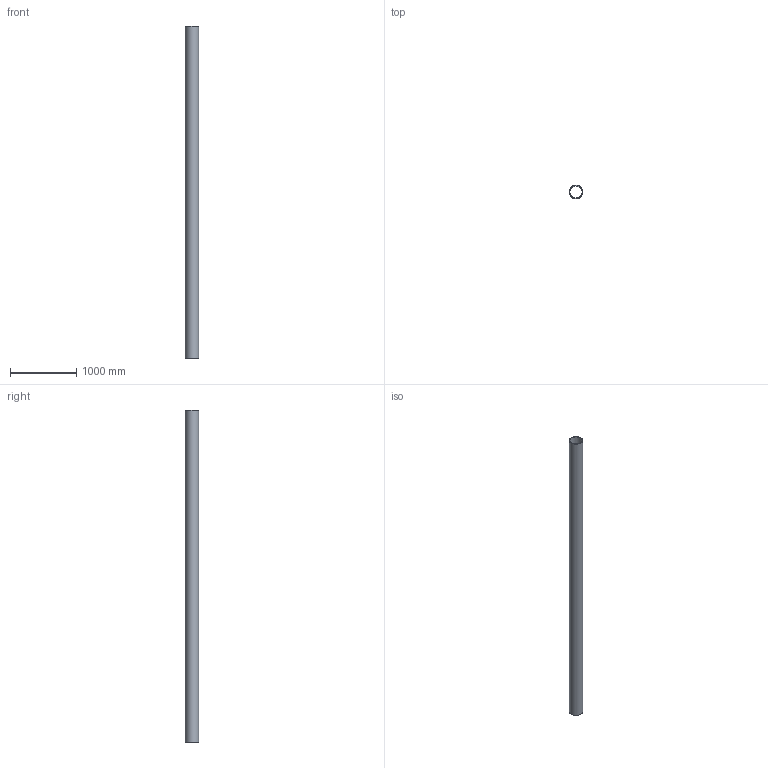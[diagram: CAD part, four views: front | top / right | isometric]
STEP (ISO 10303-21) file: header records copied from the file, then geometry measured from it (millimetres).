
FILE_DESCRIPTION(/* description */ (''),/* implementation_level */ '2;1');
FILE_NAME(/* name */ 'Z:\Geberit\Export\Export18\Rohr PE_Ipart\stp\370050.stp',/* time_stamp */ '2014-08-26T22:08:32+02:00',/* author */ ('Bründl'),/* organization */ (''),/* preprocessor_version */ 'ST-DEVELOPER v15.2',/* originating_system */ 'Autodesk Inventor 2014',/* authorisation */ '');
FILE_SCHEMA (('AUTOMOTIVE_DESIGN { 1 0 10303 214 3 1 1 }'));
Length unit declared in the file: millimetre
Products named in the file (1): 370050
Bounding box: 200 x 200 x 5000 mm (x, y, z)
Volume: 23258938.3 mm3; surface area: 6050586.2 mm2
Topology: 1 solids, 1 shells, 4 faces, 6 edges, 4 vertices
Faces by surface type: cylinder 2, plane 2
Full cylindrical faces by diameter (mm): 184.6 x1, 200 x1
Entity records: 113 total; most frequent: DIRECTION 18, CARTESIAN_POINT 13, AXIS2_PLACEMENT_3D 9, EDGE_LOOP 8, ORIENTED_EDGE 8, FACE_BOUND 6, STYLED_ITEM 5, CIRCLE 4
